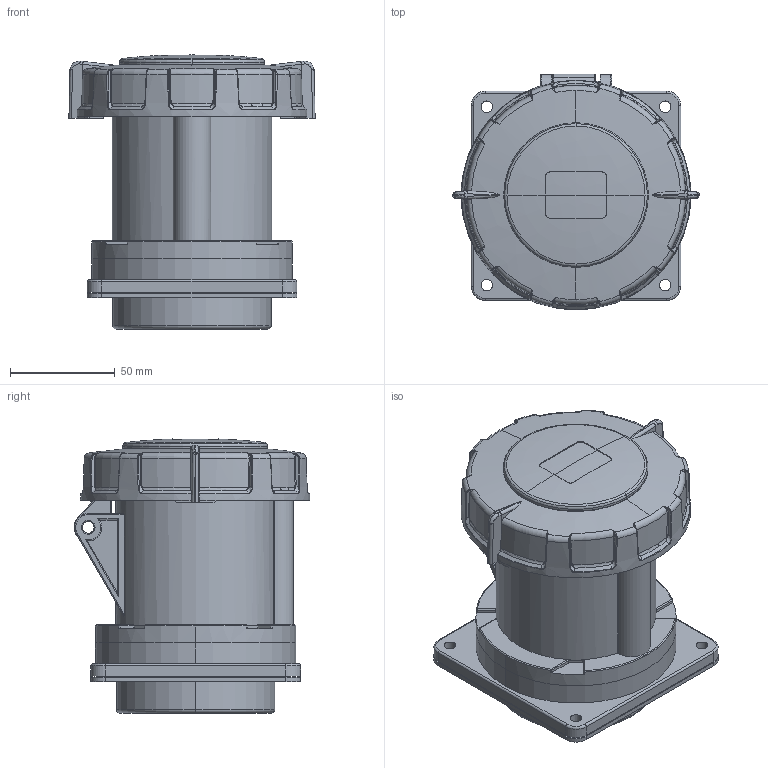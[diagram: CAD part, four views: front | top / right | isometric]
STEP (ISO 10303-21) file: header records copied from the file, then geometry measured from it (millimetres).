
FILE_DESCRIPTION(('FreeCAD Model'),'2;1');
FILE_NAME('Open CASCADE Shape Model','2026-02-04T10:41:59',(''),(''), 'Open CASCADE STEP processor 7.8','FreeCAD','Unknown');
FILE_SCHEMA(('AUTOMOTIVE_DESIGN { 1 0 10303 214 1 1 1 1 }'));
Length unit declared in the file: millimetre
Products named in the file (8): TL3R63653; Proteção terminais; Base externa; Tampa parte 2; Tampa parte 1; Tomada; Terminais; Base interna
Assembly tree (7 placements, depth 2):
  TL3R63653
    Proteção terminais
    Base externa
    Tampa parte 2
    Tampa parte 1
    Tomada
    Terminais
    Base interna
Bounding box: 117.39 x 112.5 x 130.65 mm (x, y, z)
Volume: 588235.5 mm3; surface area: 176135.7 mm2
Topology: 7 solids, 7 shells, 1607 faces, 4686 edges, 3129 vertices
Faces by surface type: plane 901, cylinder 343, bspline 172, torus 102, cone 79, sphere 10
Full cylindrical faces by diameter (mm): 5.5 x4, 18.5 x1, 74 x1, 78 x1, 99.8 x1
Entity records: 61985 total; most frequent: CARTESIAN_POINT 20949, ORIENTED_EDGE 9346, DIRECTION 7599, EDGE_CURVE 4673, VERTEX_POINT 3129, AXIS2_PLACEMENT_3D 2619, LINE 2361, VECTOR 2361
